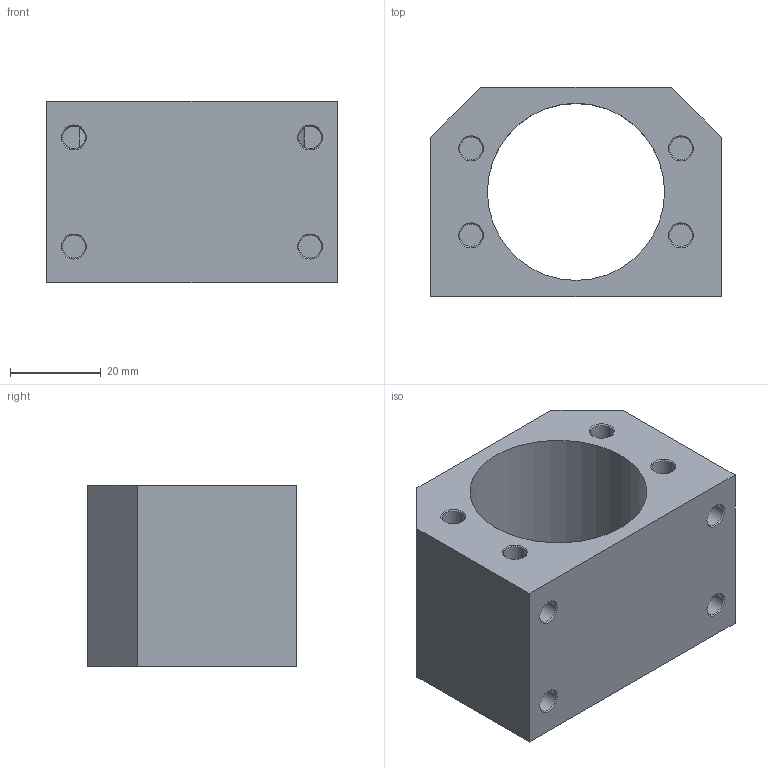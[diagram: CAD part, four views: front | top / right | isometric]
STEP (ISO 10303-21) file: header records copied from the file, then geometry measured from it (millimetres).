
FILE_DESCRIPTION (( 'STEP AP214' ), '1' );
FILE_NAME ('DSG2020.STEP', '2022-04-21T10:38:53', ( '' ), ( '' ), 'SwSTEP 2.0', 'SolidWorks 2019', '' );
FILE_SCHEMA (( 'AUTOMOTIVE_DESIGN' ));
Length unit declared in the file: millimetre
Products named in the file (1): DSG2020
Bounding box: 64 x 46 x 40 mm (x, y, z)
Volume: 63351.5 mm3; surface area: 17831.5 mm2
Topology: 1 solids, 1 shells, 50 faces, 118 edges, 76 vertices
Faces by surface type: cylinder 18, cone 16, plane 16
Entity records: 1708 total; most frequent: CARTESIAN_POINT 281, DIRECTION 276, ORIENTED_EDGE 236, EDGE_CURVE 118, AXIS2_PLACEMENT_3D 111, VERTEX_POINT 76, EDGE_LOOP 62, CIRCLE 60
